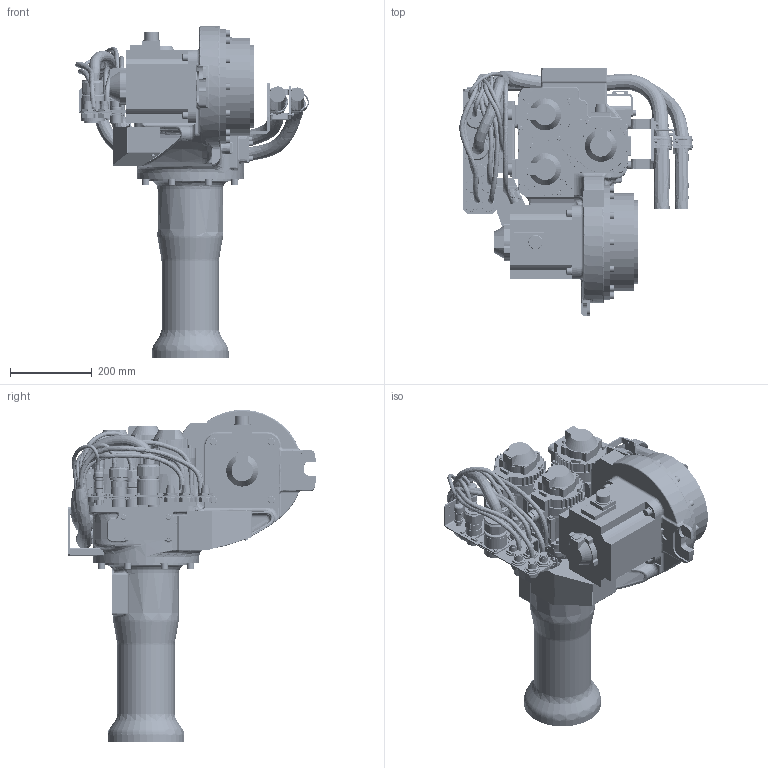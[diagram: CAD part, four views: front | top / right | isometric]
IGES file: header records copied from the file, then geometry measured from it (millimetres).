
Start section:  PTC IGES file: u_axis_gp110_sw1.igs
Global section: file name: u_axis_gp110_sw1.igs; native system: Creo Parametric by Parametric Technology Corporation; preprocessor: 2015030; author: robo228; organization: Unknown; date: 20171226.145546; units: millimetre
Bounding box: 569.32 x 606.6 x 809.79 mm (x, y, z)
Volume: 39787774.6 mm3; surface area: 2300710.4 mm2
Topology: 4 solids, 18 shells, 6342 faces, 17377 edges, 11305 vertices
Faces by surface type: revolution 3407, bspline 2931, extrusion 4
